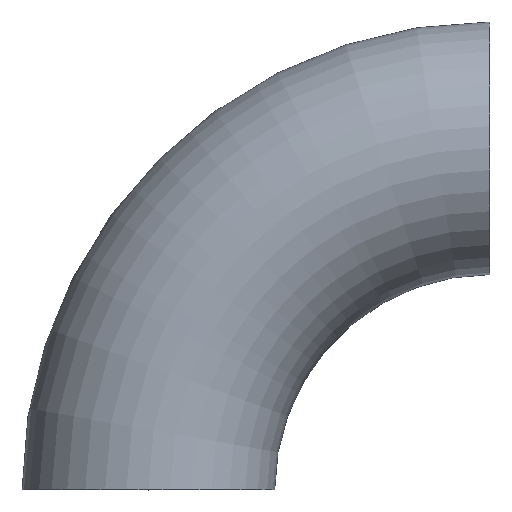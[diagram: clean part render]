
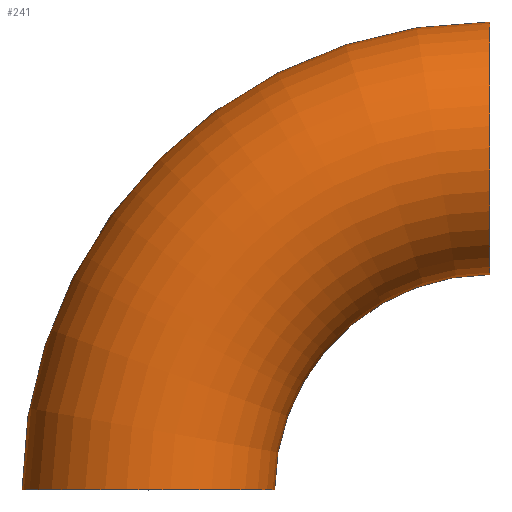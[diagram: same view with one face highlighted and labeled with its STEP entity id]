
A CAD part, top view. The second image highlights one B-rep face of the part: STEP entity #241.
In plain terms, the highlighted toroidal (fillet/blend) face has major radius 73 mm and minor radius 27 mm.
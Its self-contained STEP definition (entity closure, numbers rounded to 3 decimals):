
#1 = VERTEX_POINT ( 'NONE', #149 ) ;
#10 = DIRECTION ( 'NONE',  ( 1., 0., 0. ) ) ;
#14 = DIRECTION ( 'NONE',  ( 0., 0., 1. ) ) ;
#16 = ORIENTED_EDGE ( 'NONE', *, *, #129, .F. ) ;
#25 = CARTESIAN_POINT ( 'NONE',  ( 0., 0., 0. ) ) ;
#36 = DIRECTION ( 'NONE',  ( 1., 0., 0. ) ) ;
#38 = ORIENTED_EDGE ( 'NONE', *, *, #68, .T. ) ;
#43 = ORIENTED_EDGE ( 'NONE', *, *, #78, .F. ) ;
#53 = CARTESIAN_POINT ( 'NONE',  ( 73., 46., 0. ) ) ;
#60 = FACE_OUTER_BOUND ( 'NONE', #165, .T. ) ;
#68 = EDGE_CURVE ( 'NONE', #204, #1, #167, .T. ) ;
#70 = AXIS2_PLACEMENT_3D ( 'NONE', #198, #191, #10 ) ;
#73 = CIRCLE ( 'NONE', #92, 27. ) ;
#78 = EDGE_CURVE ( 'NONE', #116, #1, #156, .T. ) ;
#86 = EDGE_CURVE ( 'NONE', #144, #204, #223, .T. ) ;
#92 = AXIS2_PLACEMENT_3D ( 'NONE', #155, #36, #174 ) ;
#94 = CARTESIAN_POINT ( 'NONE',  ( 73., 0., 0. ) ) ;
#99 = CARTESIAN_POINT ( 'NONE',  ( 73., 0., 0. ) ) ;
#101 = TOROIDAL_SURFACE ( 'NONE', #250, 73., 27. ) ;
#116 = VERTEX_POINT ( 'NONE', #53 ) ;
#118 = DIRECTION ( 'NONE',  ( 1., 0., 0. ) ) ;
#129 = EDGE_CURVE ( 'NONE', #144, #116, #73, .T. ) ;
#136 = AXIS2_PLACEMENT_3D ( 'NONE', #25, #171, #218 ) ;
#144 = VERTEX_POINT ( 'NONE', #245 ) ;
#149 = CARTESIAN_POINT ( 'NONE',  ( 27., 0., 0. ) ) ;
#155 = CARTESIAN_POINT ( 'NONE',  ( 73., 73., 0. ) ) ;
#156 = CIRCLE ( 'NONE', #217, 46. ) ;
#165 = EDGE_LOOP ( 'NONE', ( #16, #206, #38, #43 ) ) ;
#167 = CIRCLE ( 'NONE', #136, 27. ) ;
#171 = DIRECTION ( 'NONE',  ( 0., 1., 0. ) ) ;
#174 = DIRECTION ( 'NONE',  ( 0., 0., 1. ) ) ;
#181 = DIRECTION ( 'NONE',  ( 1., 0., 0. ) ) ;
#191 = DIRECTION ( 'NONE',  ( 0., 0., 1. ) ) ;
#198 = CARTESIAN_POINT ( 'NONE',  ( 73., 0., 0. ) ) ;
#204 = VERTEX_POINT ( 'NONE', #229 ) ;
#206 = ORIENTED_EDGE ( 'NONE', *, *, #86, .T. ) ;
#217 = AXIS2_PLACEMENT_3D ( 'NONE', #99, #14, #118 ) ;
#218 = DIRECTION ( 'NONE',  ( 0., 0., 1. ) ) ;
#223 = CIRCLE ( 'NONE', #70, 100. ) ;
#229 = CARTESIAN_POINT ( 'NONE',  ( -27., 0., 0. ) ) ;
#241 = ADVANCED_FACE ( 'NONE', ( #60 ), #101, .T. ) ;
#245 = CARTESIAN_POINT ( 'NONE',  ( 73., 100., 0. ) ) ;
#246 = DIRECTION ( 'NONE',  ( 0., 0., 1. ) ) ;
#250 = AXIS2_PLACEMENT_3D ( 'NONE', #94, #246, #181 ) ;
